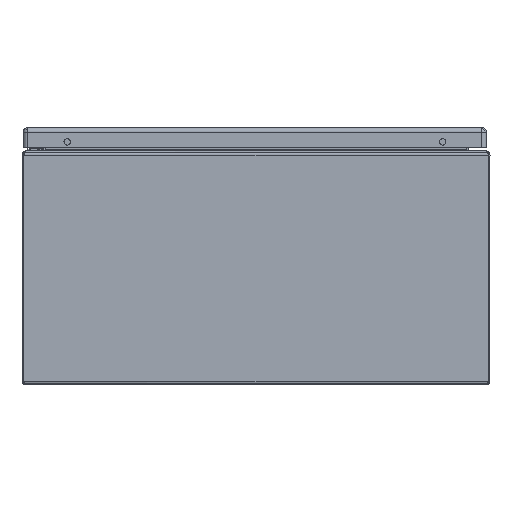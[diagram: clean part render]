
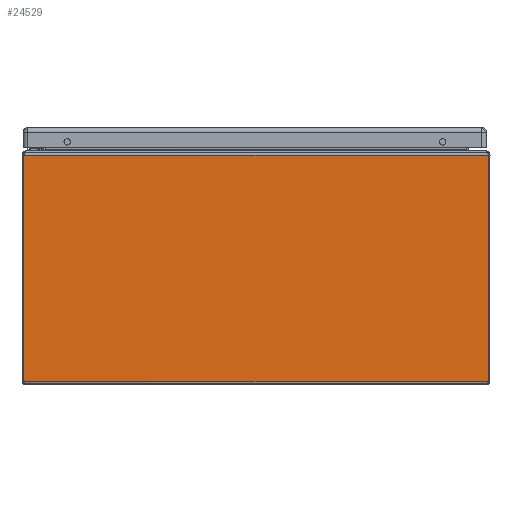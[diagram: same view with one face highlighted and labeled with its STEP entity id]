
A CAD part, front view. The second image highlights one B-rep face of the part: STEP entity #24529.
In plain terms, the highlighted planar face has unit normal (0, -1, 0).
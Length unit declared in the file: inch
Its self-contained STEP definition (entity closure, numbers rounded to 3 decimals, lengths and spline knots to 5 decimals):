
#991 = DIRECTION ( 'NONE',  ( 1., 0., 0. ) ) ;
#993 = CARTESIAN_POINT ( 'NONE',  ( -158., -15., 0.106 ) ) ;
#1013 = DIRECTION ( 'NONE',  ( 1., 0., 0. ) ) ;
#1015 = CARTESIAN_POINT ( 'NONE',  ( -158., -15., 7.855 ) ) ;
#1052 = DIRECTION ( 'NONE',  ( 0., 0., 1. ) ) ;
#1054 = CARTESIAN_POINT ( 'NONE',  ( 7.93793, -15., 7.855 ) ) ;
#1294 = DIRECTION ( 'NONE',  ( 0., 0., -1. ) ) ;
#1295 = CARTESIAN_POINT ( 'NONE',  ( -7.93793, -15., 7.855 ) ) ;
#3659 = VECTOR ( 'NONE', #1294, 39.37008 ) ;
#3663 = LINE ( 'NONE', #1295, #3659 ) ;
#3724 = LINE ( 'NONE', #1054, #3728 ) ;
#3728 = VECTOR ( 'NONE', #1052, 39.37008 ) ;
#3746 = LINE ( 'NONE', #1015, #3747 ) ;
#3747 = VECTOR ( 'NONE', #1013, 39.37008 ) ;
#3754 = LINE ( 'NONE', #993, #3755 ) ;
#3755 = VECTOR ( 'NONE', #991, 39.37008 ) ;
#11569 = CARTESIAN_POINT ( 'NONE',  ( -7.93793, -15., 0.106 ) ) ;
#11572 = CARTESIAN_POINT ( 'NONE',  ( -7.93793, -15., 7.855 ) ) ;
#14090 = DIRECTION ( 'NONE',  ( 0., 0., -1. ) ) ;
#14094 = DIRECTION ( 'NONE',  ( 0., -1., 0. ) ) ;
#14112 = PLANE ( 'NONE',  #18074 ) ;
#14135 = CARTESIAN_POINT ( 'NONE',  ( -158., -15., 7.855 ) ) ;
#17311 = EDGE_LOOP ( 'NONE', ( #18645, #18646, #18647, #18648 ) ) ;
#18074 = AXIS2_PLACEMENT_3D ( 'NONE', #14135, #14094, #14090 ) ;
#18645 = ORIENTED_EDGE ( 'NONE', *, *, #33710, .T. ) ;
#18646 = ORIENTED_EDGE ( 'NONE', *, *, #33720, .F. ) ;
#18647 = ORIENTED_EDGE ( 'NONE', *, *, #33667, .T. ) ;
#18648 = ORIENTED_EDGE ( 'NONE', *, *, #33724, .T. ) ;
#19776 = VERTEX_POINT ( 'NONE', #11572 ) ;
#19784 = VERTEX_POINT ( 'NONE', #11569 ) ;
#23203 = VERTEX_POINT ( 'NONE', #25840 ) ;
#23205 = VERTEX_POINT ( 'NONE', #25838 ) ;
#24529 = ADVANCED_FACE ( 'NONE', ( #30365 ), #14112, .T. ) ;
#25838 = CARTESIAN_POINT ( 'NONE',  ( 7.93793, -15., 7.855 ) ) ;
#25840 = CARTESIAN_POINT ( 'NONE',  ( 7.93793, -15., 0.106 ) ) ;
#30365 = FACE_OUTER_BOUND ( 'NONE', #17311, .T. ) ;
#33667 = EDGE_CURVE ( 'NONE', #19776, #19784, #3663, .T. ) ;
#33710 = EDGE_CURVE ( 'NONE', #23203, #23205, #3724, .T. ) ;
#33720 = EDGE_CURVE ( 'NONE', #19776, #23205, #3746, .T. ) ;
#33724 = EDGE_CURVE ( 'NONE', #19784, #23203, #3754, .T. ) ;
